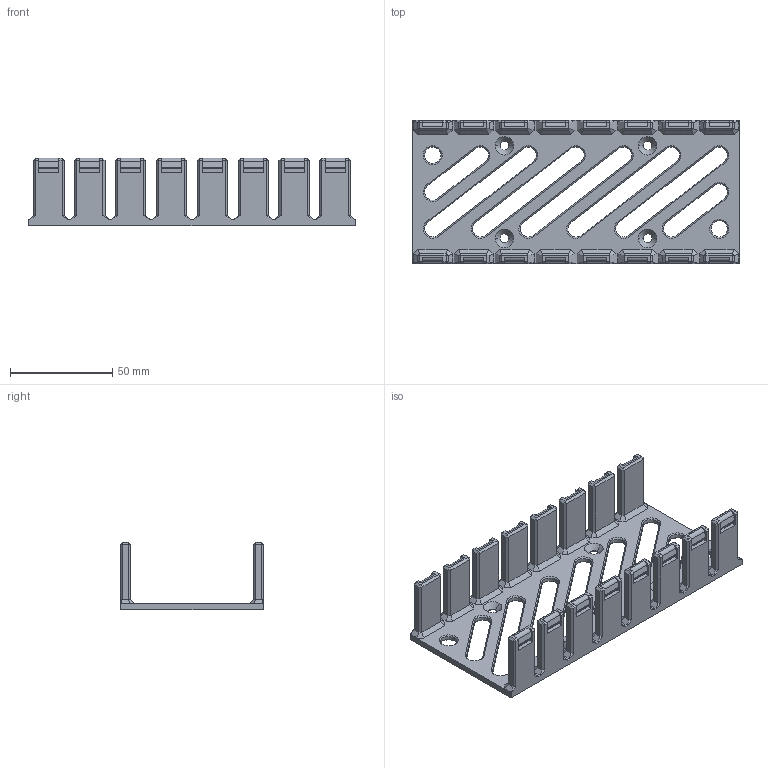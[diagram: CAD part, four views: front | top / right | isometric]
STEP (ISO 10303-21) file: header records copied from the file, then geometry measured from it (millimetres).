
FILE_DESCRIPTION (( 'STEP AP203' ), '1' );
FILE_NAME ('tray__mini--screwMount--30mm.STEP', '2024-02-16T04:19:54', ( '' ), ( '' ), 'SwSTEP 2.0', 'SolidWorks 2020', '' );
FILE_SCHEMA (( 'CONFIG_CONTROL_DESIGN' ));
Length unit declared in the file: millimetre
Products named in the file (1): tray__mini--screwMount--30mm
Bounding box: 160 x 70 x 33 mm (x, y, z)
Volume: 57211.6 mm3; surface area: 37376.7 mm2
Topology: 1 solids, 1 shells, 655 faces, 1592 edges, 939 vertices
Faces by surface type: plane 548, cone 58, cylinder 49
Entity records: 18562 total; most frequent: CARTESIAN_POINT 3187, ORIENTED_EDGE 3184, DIRECTION 3067, EDGE_CURVE 1592, VECTOR 1429, LINE 1429, VERTEX_POINT 939, AXIS2_PLACEMENT_3D 819
